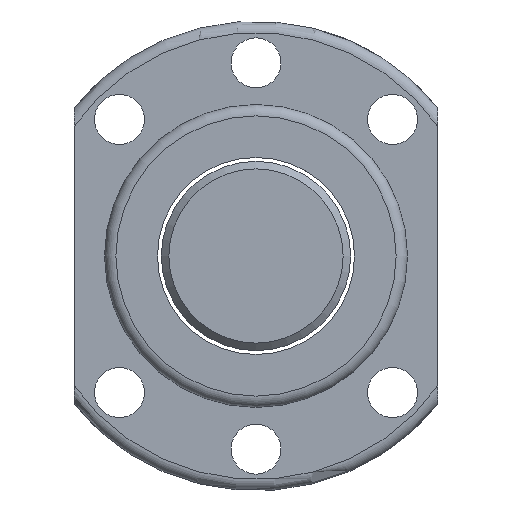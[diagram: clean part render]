
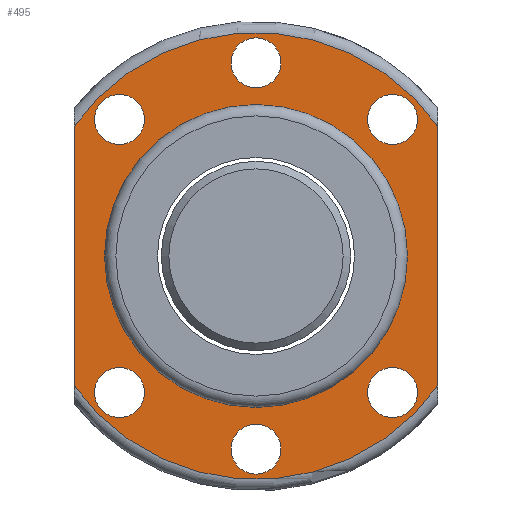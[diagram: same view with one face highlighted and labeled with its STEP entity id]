
A CAD part, left-side view. The second image highlights one B-rep face of the part: STEP entity #495.
In plain terms, the highlighted planar face has unit normal (-1, 0, 0).
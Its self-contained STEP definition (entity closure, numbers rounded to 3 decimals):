
#90=LINE('',#772,#98);
#91=LINE('',#777,#99);
#98=VECTOR('',#636,1000.);
#99=VECTOR('',#639,1000.);
#106=ORIENTED_EDGE('',*,*,#224,.T.);
#107=ORIENTED_EDGE('',*,*,#225,.F.);
#108=ORIENTED_EDGE('',*,*,#226,.F.);
#109=ORIENTED_EDGE('',*,*,#227,.F.);
#110=ORIENTED_EDGE('',*,*,#228,.F.);
#111=ORIENTED_EDGE('',*,*,#229,.F.);
#112=ORIENTED_EDGE('',*,*,#230,.F.);
#113=ORIENTED_EDGE('',*,*,#231,.T.);
#114=ORIENTED_EDGE('',*,*,#232,.T.);
#115=ORIENTED_EDGE('',*,*,#233,.F.);
#116=ORIENTED_EDGE('',*,*,#234,.T.);
#224=EDGE_CURVE('',#283,#283,#330,.T.);
#225=EDGE_CURVE('',#284,#284,#331,.T.);
#226=EDGE_CURVE('',#285,#285,#332,.T.);
#227=EDGE_CURVE('',#286,#286,#333,.T.);
#228=EDGE_CURVE('',#287,#287,#334,.T.);
#229=EDGE_CURVE('',#288,#288,#335,.T.);
#230=EDGE_CURVE('',#289,#289,#336,.T.);
#231=EDGE_CURVE('',#290,#291,#90,.T.);
#232=EDGE_CURVE('',#291,#292,#337,.T.);
#233=EDGE_CURVE('',#293,#292,#91,.T.);
#234=EDGE_CURVE('',#293,#290,#338,.T.);
#283=VERTEX_POINT('',#759);
#284=VERTEX_POINT('',#761);
#285=VERTEX_POINT('',#763);
#286=VERTEX_POINT('',#765);
#287=VERTEX_POINT('',#767);
#288=VERTEX_POINT('',#769);
#289=VERTEX_POINT('',#771);
#290=VERTEX_POINT('',#773);
#291=VERTEX_POINT('',#774);
#292=VERTEX_POINT('',#776);
#293=VERTEX_POINT('',#778);
#330=CIRCLE('',#554,20.);
#331=CIRCLE('',#555,3.3);
#332=CIRCLE('',#556,3.3);
#333=CIRCLE('',#557,3.3);
#334=CIRCLE('',#558,3.3);
#335=CIRCLE('',#559,3.3);
#336=CIRCLE('',#560,3.3);
#337=CIRCLE('',#561,29.5);
#338=CIRCLE('',#562,29.5);
#362=EDGE_LOOP('',(#106));
#363=EDGE_LOOP('',(#107));
#364=EDGE_LOOP('',(#108));
#365=EDGE_LOOP('',(#109));
#366=EDGE_LOOP('',(#110));
#367=EDGE_LOOP('',(#111));
#368=EDGE_LOOP('',(#112));
#369=EDGE_LOOP('',(#113,#114,#115,#116));
#424=FACE_BOUND('',#362,.T.);
#425=FACE_BOUND('',#363,.T.);
#426=FACE_BOUND('',#364,.T.);
#427=FACE_BOUND('',#365,.T.);
#428=FACE_BOUND('',#366,.T.);
#429=FACE_BOUND('',#367,.T.);
#430=FACE_BOUND('',#368,.T.);
#431=FACE_BOUND('',#369,.T.);
#486=PLANE('',#553);
#495=ADVANCED_FACE('',(#424,#425,#426,#427,#428,#429,#430,#431),#486,.T.);
#553=AXIS2_PLACEMENT_3D('',#757,#620,#621);
#554=AXIS2_PLACEMENT_3D('',#758,#622,#623);
#555=AXIS2_PLACEMENT_3D('',#760,#624,#625);
#556=AXIS2_PLACEMENT_3D('',#762,#626,#627);
#557=AXIS2_PLACEMENT_3D('',#764,#628,#629);
#558=AXIS2_PLACEMENT_3D('',#766,#630,#631);
#559=AXIS2_PLACEMENT_3D('',#768,#632,#633);
#560=AXIS2_PLACEMENT_3D('',#770,#634,#635);
#561=AXIS2_PLACEMENT_3D('',#775,#637,#638);
#562=AXIS2_PLACEMENT_3D('',#779,#640,#641);
#620=DIRECTION('',(-1.,0.,0.));
#621=DIRECTION('',(0.,-1.,0.));
#622=DIRECTION('',(1.,0.,0.));
#623=DIRECTION('',(0.,1.,0.));
#624=DIRECTION('',(-1.,0.,0.));
#625=DIRECTION('',(0.,-1.,0.));
#626=DIRECTION('',(-1.,0.,0.));
#627=DIRECTION('',(0.,-1.,0.));
#628=DIRECTION('',(-1.,0.,0.));
#629=DIRECTION('',(0.,-1.,0.));
#630=DIRECTION('',(-1.,0.,0.));
#631=DIRECTION('',(0.,-1.,0.));
#632=DIRECTION('',(-1.,0.,0.));
#633=DIRECTION('',(0.,-1.,0.));
#634=DIRECTION('',(-1.,0.,0.));
#635=DIRECTION('',(0.,-1.,0.));
#636=DIRECTION('',(0.,0.,1.));
#637=DIRECTION('',(-1.,0.,0.));
#638=DIRECTION('',(0.,-1.,0.));
#639=DIRECTION('',(0.,0.,1.));
#640=DIRECTION('',(-1.,0.,0.));
#641=DIRECTION('',(0.,-1.,0.));
#757=CARTESIAN_POINT('',(-25.,24.75,0.));
#758=CARTESIAN_POINT('',(-25.,0.,0.));
#759=CARTESIAN_POINT('',(-25.,20.,0.));
#760=CARTESIAN_POINT('',(-25.,18.031,18.031));
#761=CARTESIAN_POINT('',(-25.,14.731,18.031));
#762=CARTESIAN_POINT('',(-25.,18.031,-18.031));
#763=CARTESIAN_POINT('',(-25.,14.731,-18.031));
#764=CARTESIAN_POINT('',(-25.,0.,25.5));
#765=CARTESIAN_POINT('',(-25.,-3.3,25.5));
#766=CARTESIAN_POINT('',(-25.,0.,-25.5));
#767=CARTESIAN_POINT('',(-25.,-3.3,-25.5));
#768=CARTESIAN_POINT('',(-25.,-18.031,-18.031));
#769=CARTESIAN_POINT('',(-25.,-21.331,-18.031));
#770=CARTESIAN_POINT('',(-25.,-18.031,18.031));
#771=CARTESIAN_POINT('',(-25.,-21.331,18.031));
#772=CARTESIAN_POINT('',(-25.,-24.,0.));
#773=CARTESIAN_POINT('',(-25.,-24.,-17.154));
#774=CARTESIAN_POINT('',(-25.,-24.,17.154));
#775=CARTESIAN_POINT('',(-25.,0.,0.));
#776=CARTESIAN_POINT('',(-25.,24.,17.154));
#777=CARTESIAN_POINT('',(-25.,24.,0.));
#778=CARTESIAN_POINT('',(-25.,24.,-17.154));
#779=CARTESIAN_POINT('',(-25.,0.,0.));
